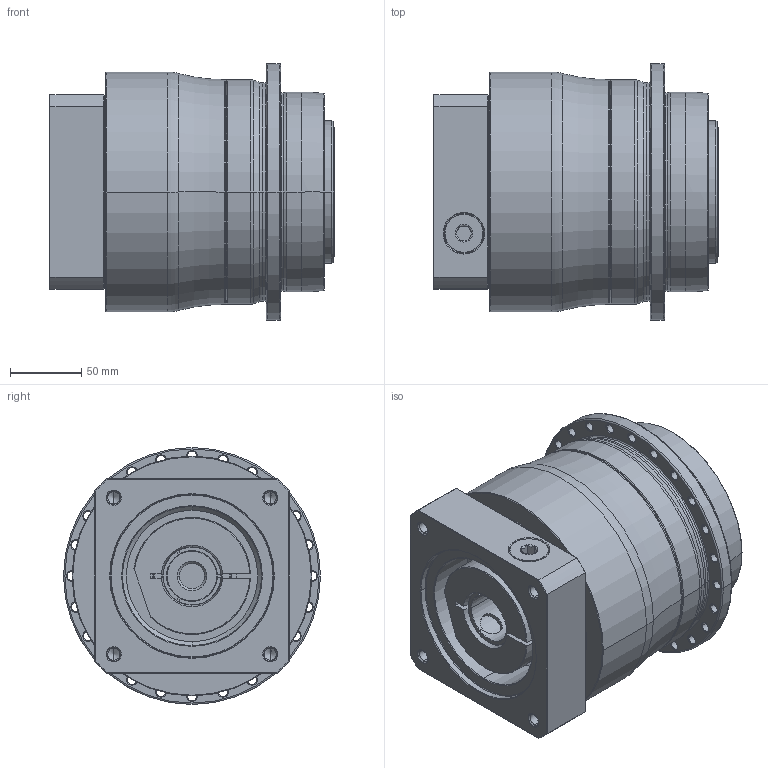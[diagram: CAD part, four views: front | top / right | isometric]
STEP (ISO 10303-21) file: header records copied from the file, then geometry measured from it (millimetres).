
FILE_DESCRIPTION((''),'2;1');
FILE_NAME('AP140_2ST_35-P0409800201_ASM','2018-05-29T',('d01226'),(''),'PRO/ENGINEER BY PARAMETRIC TECHNOLOGY CORPORATION, 2008410','PRO/ENGINEER BY PARAMETRIC TECHNOLOGY CORPORATION, 2008410','');
FILE_SCHEMA(('CONFIG_CONTROL_DESIGN'));
Length unit declared in the file: millimetre
Products named in the file (9): P0278501003; P0359501103; P1317510401; P0503800012; P0912404001; P1211500001; P0409800201; 21711422019; AP140_2ST_35-P0409800201_ASM
Assembly tree (8 placements, depth 2):
  AP140_2ST_35-P0409800201_ASM
    P0278501003
    P0359501103
    P1317510401
    P0503800012
    P0912404001
    P1211500001
    P0409800201
    21711422019
Bounding box: 200 x 180 x 180 mm (x, y, z)
Volume: 3207828 mm3; surface area: 357811.6 mm2
Topology: 9 solids, 34 shells, 648 faces, 1499 edges, 924 vertices
Faces by surface type: cylinder 272, cone 182, plane 110, torus 70, bspline 14
Entity records: 23491 total; most frequent: CARTESIAN_POINT 7926, DIRECTION 3587, ORIENTED_EDGE 2880, AXIS2_PLACEMENT_3D 1534, EDGE_CURVE 1491, VERTEX_POINT 924, CIRCLE 873, EDGE_LOOP 807
